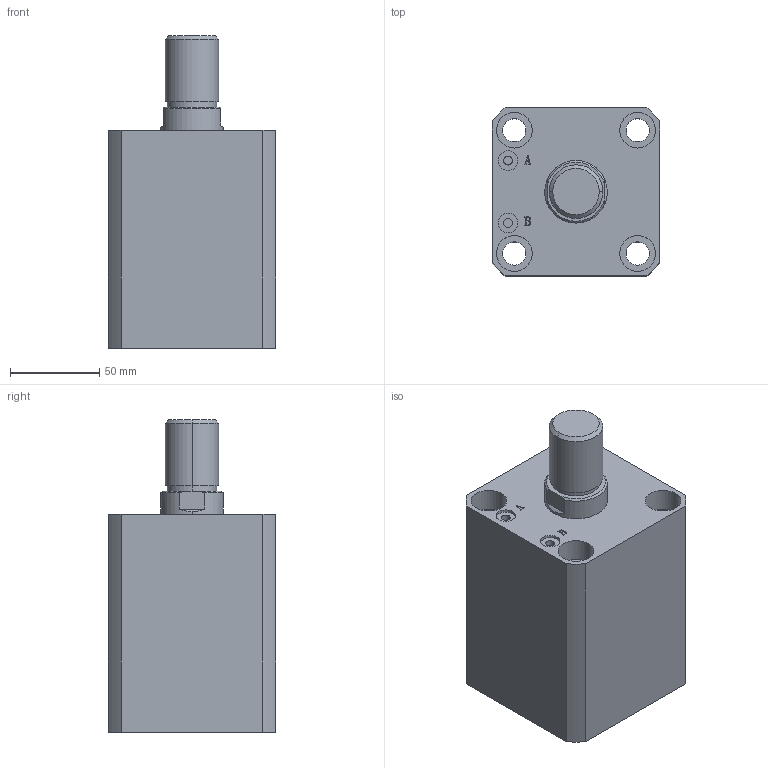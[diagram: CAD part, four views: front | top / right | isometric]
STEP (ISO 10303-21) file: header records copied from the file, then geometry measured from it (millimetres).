
FILE_DESCRIPTION (( 'STEP AP203' ), '1' );
FILE_NAME ('HTB-SDMA63-55W.STEP', '2019-10-08T01:08:57', ( '微软用户' ), ( '微软中国' ), 'SwSTEP 2.0', 'SolidWorks 2012', '' );
FILE_SCHEMA (( 'CONFIG_CONTROL_DESIGN' ));
Length unit declared in the file: millimetre
Products named in the file (3): HTB-SDMA63-55W; HTB-SDMA63-55W活塞杆; HTB-SDMA63-55掛极
Assembly tree (2 placements, depth 2):
  HTB-SDMA63-55W
    HTB-SDMA63-55掛极
    HTB-SDMA63-55W活塞杆
Bounding box: 94 x 94 x 175 mm (x, y, z)
Volume: 902289.9 mm3; surface area: 129998.8 mm2
Topology: 2 solids, 2 shells, 141 faces, 337 edges, 222 vertices
Faces by surface type: plane 67, cylinder 48, bspline 16, torus 6, cone 4
Entity records: 5176 total; most frequent: CARTESIAN_POINT 1593, ORIENTED_EDGE 674, DIRECTION 669, EDGE_CURVE 337, AXIS2_PLACEMENT_3D 242, VERTEX_POINT 222, VECTOR 185, LINE 185
